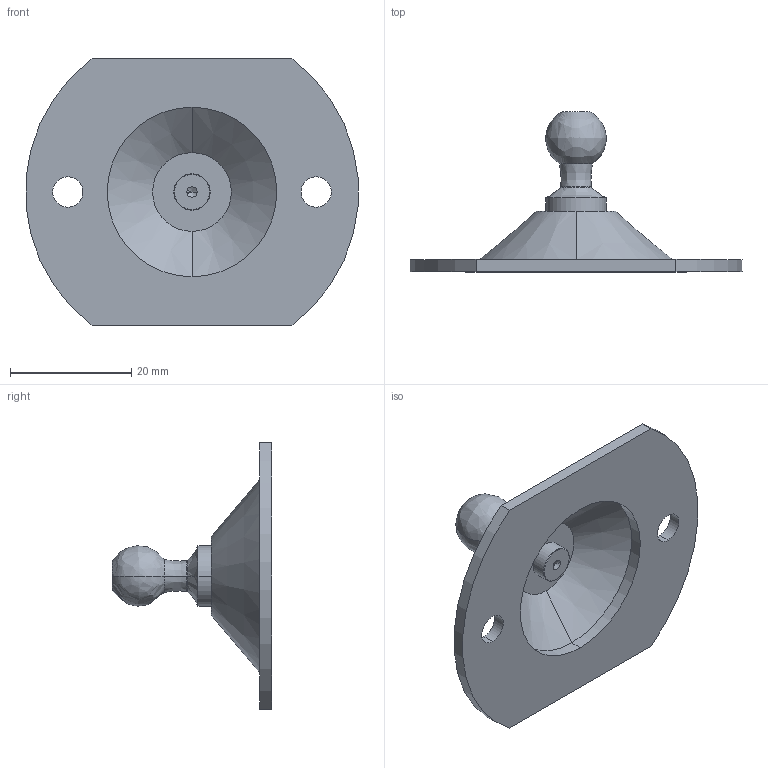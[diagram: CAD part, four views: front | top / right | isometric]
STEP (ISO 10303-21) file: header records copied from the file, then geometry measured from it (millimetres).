
FILE_DESCRIPTION (( 'STEP AP214' ), '1' );
FILE_NAME ('15.BVS-012.STEP', '2017-10-09T07:11:16', ( '' ), ( '' ), 'SwSTEP 2.0', 'SolidWorks 2016', '' );
FILE_SCHEMA (( 'AUTOMOTIVE_DESIGN' ));
Length unit declared in the file: millimetre
Products named in the file (1): 15.BVS-012
Bounding box: 54.8 x 26.38 x 44 mm (x, y, z)
Volume: 5148.9 mm3; surface area: 5552.2 mm2
Topology: 1 solids, 1 shells, 36 faces, 84 edges, 49 vertices
Faces by surface type: cylinder 12, bspline 8, cone 8, plane 8
Entity records: 1198 total; most frequent: CARTESIAN_POINT 370, DIRECTION 176, ORIENTED_EDGE 156, EDGE_CURVE 78, AXIS2_PLACEMENT_3D 75, VERTEX_POINT 49, CIRCLE 46, EDGE_LOOP 45
